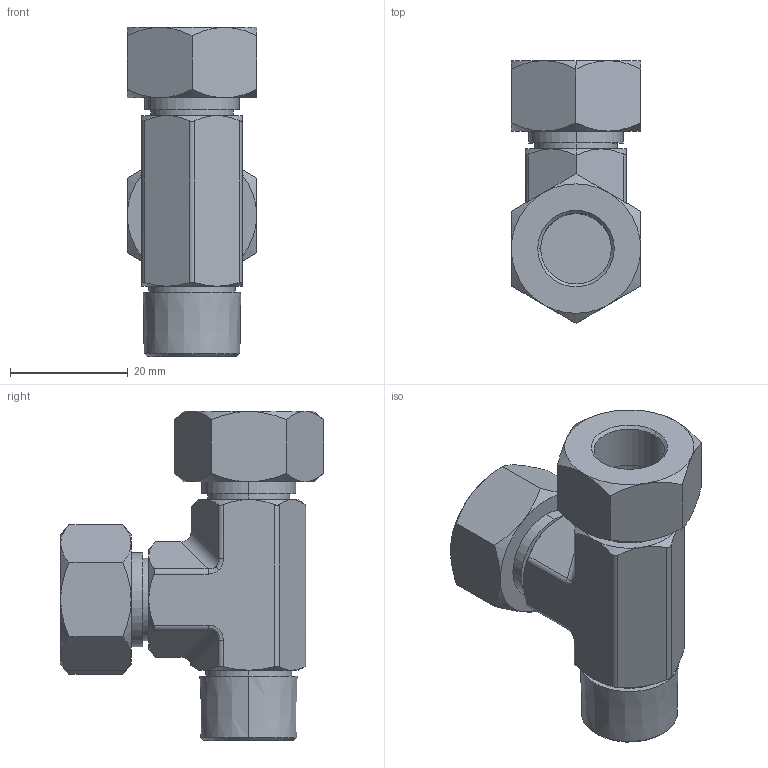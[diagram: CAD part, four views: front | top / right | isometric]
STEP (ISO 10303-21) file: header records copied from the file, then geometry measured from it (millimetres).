
FILE_DESCRIPTION (( 'STEP AP203' ), '1' );
FILE_NAME ('DXH31L0012 B3.STEP', '2018-10-28T16:25:56', ( '' ), ( '' ), 'SwSTEP 2.0', 'SolidWorks 2013', '' );
FILE_SCHEMA (( 'CONFIG_CONTROL_DESIGN' ));
Length unit declared in the file: millimetre
Products named in the file (1): DXH31L0012 B3
Bounding box: 22 x 44.7 x 56 mm (x, y, z)
Volume: 16202.7 mm3; surface area: 9511.9 mm2
Topology: 3 solids, 3 shells, 138 faces, 307 edges, 182 vertices
Faces by surface type: cone 58, plane 42, cylinder 32, bspline 6
Entity records: 4381 total; most frequent: CARTESIAN_POINT 1493, ORIENTED_EDGE 610, DIRECTION 544, EDGE_CURVE 305, AXIS2_PLACEMENT_3D 232, VERTEX_POINT 181, EDGE_LOOP 148, FACE_OUTER_BOUND 137
